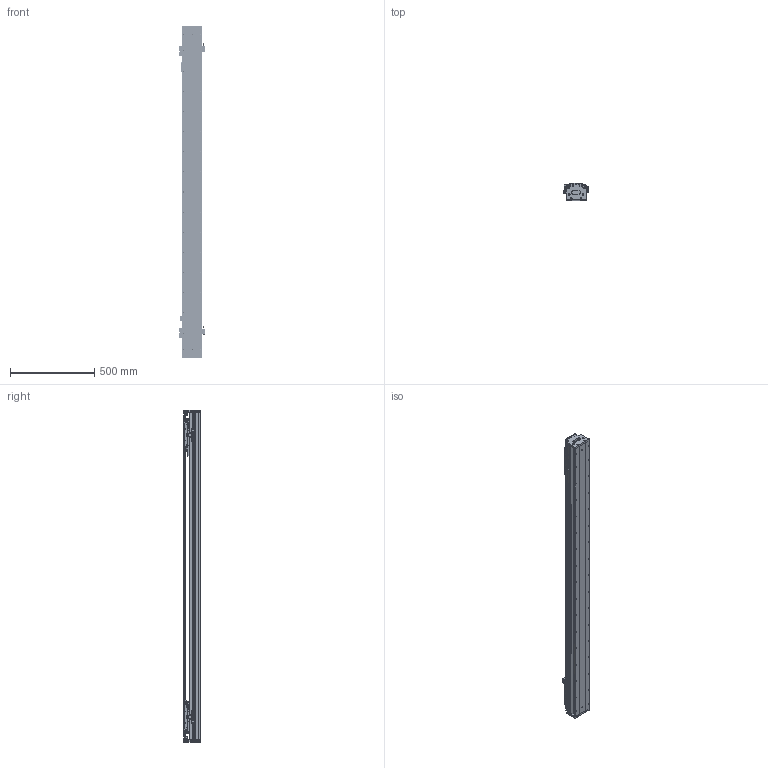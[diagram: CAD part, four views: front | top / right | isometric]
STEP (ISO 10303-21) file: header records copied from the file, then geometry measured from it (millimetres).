
FILE_DESCRIPTION (( 'STEP AP203' ), '1' );
FILE_NAME ('DKW119-2×C2-W060(T1460-L005-0.2).STEP', '2021-09-15T06:23:13', ( '微软用户' ), ( '微软中国' ), 'SwSTEP 2.0', 'SolidWorks 2018', '' );
FILE_SCHEMA (( 'CONFIG_CONTROL_DESIGN' ));
Length unit declared in the file: millimetre
Products named in the file (26): RUS嫖掑喜; 12160-0000-003-00 DKW120詩湍嶺輸; DKW119-RU-DTJ-00 RU2黍杅芛盓殤; Ru2; 12160-0000-004-00  DKW120詩湍揤輸; 电机出线 ^DKW119-2×C2-W060(T1460-L005-0.2); CKM02-W060_00; DKW119 单轴模组-拉钢带组件; CKMA01-W060-TRLxxx; DKW-DG-XJ-Z-00 笢潔滅袉砎蝶; pm-y65; DKW-HXJ-JY-00 遣喳砎蝶; DKW-GYP-ZJ-00 笢潔嫖萇覜茼え; 10980-0001-003-00 嫖萇羲壽嘐隅釱; 11062-0001-004-00 DKW119傷啣; DKW-KGZ-ZJ-00 中间光电开关支架; 嫖萇羲壽蚾饜极; 06652-0001-004-00 DKW120嶺輸菜輸; EE_SX674A; 嫖萇羲壽蚾饜极A; 12018-0001-002-00 詩湍; 12018-0001-001-00 菁釱; DKW119-2×C2-W060(T1460-L005-0.2); DKW-SG-GYP-H-00 嫖萇覜茼え; 砎蝶猾沭; MSB15-DG-U
Assembly tree (45 placements, depth 3):
  DKW119-2×C2-W060(T1460-L005-0.2)
    12018-0001-001-00 菁釱
    MSB15-DG-U  x2
    DKW119-RU-DTJ-00 RU2黍杅芛盓殤  x2
    电机出线 ^DKW119-2×C2-W060(T1460-L005-0.2)  x2
    CKMA01-W060-TRLxxx
    DKW119 单轴模组-拉钢带组件
      DKW-HXJ-JY-00 遣喳砎蝶  x4
      11062-0001-004-00 DKW119傷啣  x2
      06652-0001-004-00 DKW120嶺輸菜輸  x4
      12018-0001-002-00 詩湍
      砎蝶猾沭  x2
      12160-0000-003-00 DKW120詩湍嶺輸  x2
      12160-0000-004-00  DKW120詩湍揤輸  x2
    嫖萇羲壽蚾饜极
      pm-y65  x2
      10980-0001-003-00 嫖萇羲壽嘐隅釱
    嫖萇羲壽蚾饜极A
      pm-y65  x2
      10980-0001-003-00 嫖萇羲壽嘐隅釱
    DKW-SG-GYP-H-00 嫖萇覜茼え  x2
    RUS嫖掑喜
    Ru2  x2
    CKM02-W060_00  x2
    DKW-DG-XJ-Z-00 笢潔滅袉砎蝶
    DKW-GYP-ZJ-00 笢潔嫖萇覜茼え
    DKW-KGZ-ZJ-00 中间光电开关支架
    EE_SX674A
Bounding box: 154.3 x 99 x 1976 mm (x, y, z)
Volume: 9297382.7 mm3; surface area: 2962665.6 mm2
Topology: 62 solids, 160 shells, 6465 faces, 17150 edges, 10982 vertices
Faces by surface type: plane 3476, cylinder 1961, cone 534, bspline 494
Entity records: 133247 total; most frequent: CARTESIAN_POINT 43986, ORIENTED_EDGE 17875, DIRECTION 17262, EDGE_CURVE 8978, VERTEX_POINT 5884, AXIS2_PLACEMENT_3D 5826, VECTOR 5610, LINE 5610
